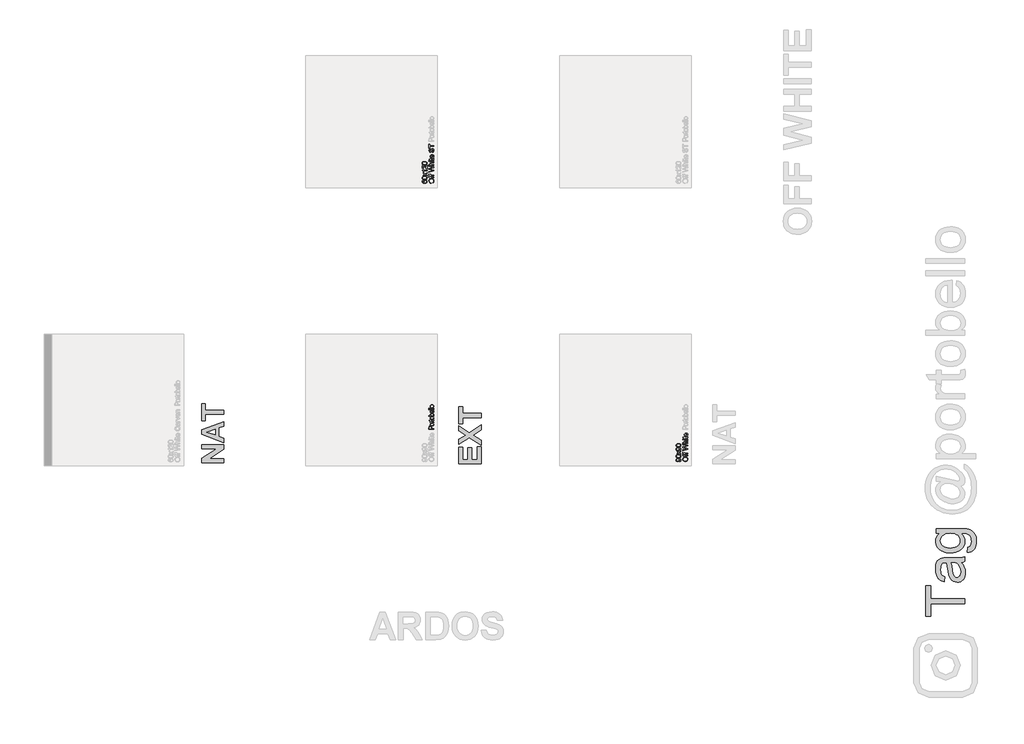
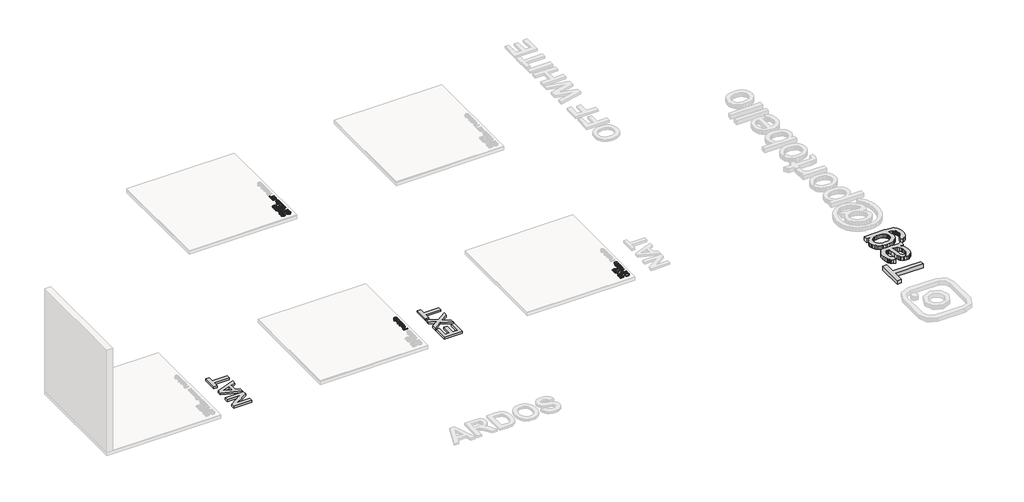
# One storey, part 3 of 12: 8 proxies.
"""IFC4 building model written with IfcOpenShell, lengths in millimetres."""

from ifc_helpers import new_model, si_unit, frame, origin, origin_with_axes, place, context, project, spatial, polyline, outline, extrude, element, save

model = new_model("IFC4")

# Units and contexts
model_context = context("Model", 3, world=origin())
ifc_project = project(units=[si_unit("LENGTHUNIT", "METRE", prefix="MILLI")], contexts=[model_context])

# Site, building, storey
site = spatial("IfcSite", under=ifc_project)
building = spatial("IfcBuilding", under=site)
storey = spatial("IfcBuildingStorey", under=building, Name="PORTOBELLO - SHOWROOM", Elevation=0.0)

# Proxies
placement = place(None, origin())
element("IfcBuildingElementProxy", 1, Name="10mm Arial", ObjectType="10mm Arial", at=placement, inside=storey, context=model_context, shape_type="SweptSolid", body=[
    extrude(outline(polyline([(-5733.4581519, -8456.0975392), (-5755.672093, -8452.749813), (-5772.4781688, -8442.7066346), (-5783.0547762, -8427.3720867), (-5786.580312, -8408.1502525), (-5784.924843, -8394.9739457), (-5779.958436, -8383.1588023), (-5772.030579, -8373.3486157), (-5761.4907599, -8366.1871796), (-5748.847882, -8361.8093838), (-5734.6108488, -8360.3501186), (-5720.1837432, -8361.8860259), (-5707.3630557, -8366.4937479), (-5696.8048424, -8373.9188328), (-5689.1651596, -8383.906829), (-5684.5298465, -8395.6208049), (-5682.9847421, -8408.2238289), (-5684.6923277, -8421.6024708), (-5689.8150845, -8433.4850592), (-5697.8900943, -8443.2707203), (-5708.4544389, -8450.3585801), (-5733.4581519, -8456.0975392)]), holes=[polyline([(-5733.3355245, -8443.5405004), (-5717.620832, -8441.0297058), (-5705.646273, -8433.497322), (-5698.0679039, -8422.1757536), (-5695.5417809, -8408.2974053), (-5698.0924294, -8394.2167219), (-5705.7443749, -8382.8767594), (-5718.0868158, -8375.3995579), (-5734.7089506, -8372.9071573), (-5755.4329697, -8377.1745885), (-5769.1549681, -8389.6457881), (-5774.0232732, -8408.0766761), (-5771.6780255, -8421.5840767), (-5764.6422823, -8433.0681263), (-5752.1250974, -8440.9224069), (-5733.3355245, -8443.5405004)])]), frame((0.0, 0.0, 18.0), z_axis=(0.0, 0.0, 1.0), x_axis=(1.0, 0.0, 0.0)), (0.0, 0.0, 1.0), 20.0),
    extrude(outline(polyline([(-5684.554372, -8300.7041844), (-5745.769936, -8300.7041844), (-5745.769936, -8311.6915934), (-5758.3269747, -8311.6915934), (-5758.3269747, -8300.7041844), (-5765.758191, -8300.7041844), (-5776.2305652, -8299.3798092), (-5783.7108324, -8292.9541371), (-5786.580312, -8280.2989964), (-5785.2068858, -8268.8456036), (-5773.434662, -8270.6850136), (-5774.0232732, -8277.9200262), (-5771.9386085, -8285.8294891), (-5764.1640357, -8288.1471457), (-5758.3269747, -8288.1471457), (-5758.3269747, -8274.020477), (-5745.769936, -8274.020477), (-5745.769936, -8288.1471457), (-5684.554372, -8288.1471457), (-5684.554372, -8300.7041844)])), frame((0.0, 0.0, 18.0), z_axis=(0.0, 0.0, 1.0), x_axis=(1.0, 0.0, 0.0)), (0.0, 0.0, 1.0), 20.0),
    extrude(outline(polyline([(-5684.554372, -8341.5145604), (-5745.769936, -8341.5145604), (-5745.769936, -8352.5019693), (-5758.3269747, -8352.5019693), (-5758.3269747, -8341.5145604), (-5765.758191, -8341.5145604), (-5776.2305652, -8340.1901852), (-5783.7108324, -8333.7645131), (-5786.580312, -8321.1093724), (-5785.2068858, -8309.6559796), (-5773.434662, -8311.4953896), (-5774.0232732, -8318.7304022), (-5771.9386085, -8326.6398651), (-5764.1640357, -8328.9575217), (-5758.3269747, -8328.9575217), (-5758.3269747, -8314.830853), (-5745.769936, -8314.830853), (-5745.769936, -8328.9575217), (-5684.554372, -8328.9575217), (-5684.554372, -8341.5145604)])), frame((0.0, 0.0, 18.0), z_axis=(0.0, 0.0, 1.0), x_axis=(1.0, 0.0, 0.0)), (0.0, 0.0, 1.0), 20.0),
    extrude(outline(polyline([(-5684.554372, -8204.2455253), (-5785.0106821, -8231.6404712), (-5785.0106821, -8218.691025), (-5718.9881267, -8202.7985228), (-5698.6074642, -8197.8934295), (-5716.6336819, -8192.6449797), (-5785.0106821, -8172.730301), (-5785.0106821, -8154.0664212), (-5735.4447146, -8139.596396), (-5698.6074642, -8128.8297163), (-5718.3995155, -8124.0717758), (-5785.0106821, -8108.0566463), (-5785.0106821, -8095.0826746), (-5684.554372, -8122.453095), (-5684.554372, -8135.8930506), (-5762.0548456, -8160.001584), (-5772.8705763, -8163.3615729), (-5759.8475536, -8167.1384947), (-5684.554372, -8189.0887871), (-5684.554372, -8204.2455253)])), frame((0.0, 0.0, 18.0), z_axis=(0.0, 0.0, 1.0), x_axis=(1.0, 0.0, 0.0)), (0.0, 0.0, 1.0), 20.0),
    extrude(outline(polyline([(-5684.554372, -8084.0952657), (-5785.0106821, -8084.0952657), (-5785.0106821, -8071.5382269), (-5748.0753298, -8071.5382269), (-5756.9412859, -8061.7464345), (-5759.8966046, -8049.6860364), (-5756.6715057, -8035.5838932), (-5747.7564987, -8027.0245055), (-5731.2508599, -8024.4493315), (-5684.554372, -8024.4493315), (-5684.554372, -8037.0063703), (-5729.9510102, -8037.0063703), (-5743.194762, -8041.0040213), (-5747.3395658, -8052.3347868), (-5744.5436626, -8062.6232199), (-5736.9652935, -8069.4903505), (-5723.7460672, -8071.5382269), (-5684.554372, -8071.5382269), (-5684.554372, -8084.0952657)])), frame((0.0, 0.0, 18.0), z_axis=(0.0, 0.0, 1.0), x_axis=(1.0, 0.0, 0.0)), (0.0, 0.0, 1.0), 20.0),
    extrude(outline(polyline([(-5772.4536433, -8007.1834032), (-5785.0106821, -8007.1834032), (-5785.0106821, -7994.6263644), (-5772.4536433, -7994.6263644), (-5772.4536433, -8007.1834032)])), frame((0.0, 0.0, 18.0), z_axis=(0.0, 0.0, 1.0), x_axis=(1.0, 0.0, 0.0)), (0.0, 0.0, 1.0), 20.0),
    extrude(outline(polyline([(-5684.554372, -8007.1834032), (-5758.3269747, -8007.1834032), (-5758.3269747, -7994.6263644), (-5684.554372, -7994.6263644), (-5684.554372, -8007.1834032)])), frame((0.0, 0.0, 18.0), z_axis=(0.0, 0.0, 1.0), x_axis=(1.0, 0.0, 0.0)), (0.0, 0.0, 1.0), 20.0),
    extrude(outline(polyline([(-5695.0267461, -7949.1070989), (-5684.18649, -7947.5374691), (-5682.9847421, -7956.9307227), (-5685.0694068, -7967.4521477), (-5690.5385857, -7972.7005975), (-5704.7878817, -7974.2211764), (-5745.769936, -7974.2211764), (-5745.769936, -7983.6389555), (-5758.3269747, -7983.6389555), (-5758.3269747, -7974.2211764), (-5776.2550906, -7974.2211764), (-5783.637256, -7961.6641377), (-5758.3269747, -7961.6641377), (-5758.3269747, -7949.1070989), (-5745.769936, -7949.1070989), (-5745.769936, -7961.6641377), (-5705.1557637, -7961.6641377), (-5698.6810406, -7961.0019501), (-5696.3879095, -7958.8559718), (-5695.5417809, -7954.5762779), (-5695.0267461, -7949.1070989)])), frame((0.0, 0.0, 18.0), z_axis=(0.0, 0.0, 1.0), x_axis=(1.0, 0.0, 0.0)), (0.0, 0.0, 1.0), 20.0),
    extrude(outline(polyline([(-5706.5291898, -7884.899428), (-5704.95956, -7872.5876439), (-5695.6828023, -7877.0236876), (-5688.7482267, -7884.1023504), (-5684.4256133, -7893.6642165), (-5682.9847421, -7905.5498707), (-5685.4710113, -7920.2835446), (-5692.9298187, -7931.6204414), (-5704.8767865, -7938.8493226), (-5720.8275367, -7941.2589497), (-5737.3147814, -7938.8247971), (-5749.6449596, -7931.5223395), (-5757.3336933, -7920.3387269), (-5759.8966046, -7906.2611092), (-5757.3398247, -7892.6218842), (-5749.6694851, -7881.7233801), (-5737.3638324, -7874.5772724), (-5720.9011131, -7872.1952364), (-5717.5165987, -7872.2688128), (-5717.5165987, -7928.7019109), (-5708.1172137, -7926.5283415), (-5701.2071636, -7921.4791611), (-5696.9581266, -7914.1920319), (-5695.5417809, -7905.304616), (-5698.1660058, -7892.9928319), (-5706.5291898, -7884.899428)]), holes=[polyline([(-5730.0736375, -7928.7019109), (-5730.0736375, -7884.7522752), (-5741.4534539, -7889.7799958), (-5745.8680378, -7897.1008475), (-5747.3395658, -7906.3101601), (-5742.642939, -7921.7734667), (-5737.1523002, -7926.638706), (-5730.0736375, -7928.7019109)])]), frame((0.0, 0.0, 18.0), z_axis=(0.0, 0.0, 1.0), x_axis=(1.0, 0.0, 0.0)), (0.0, 0.0, 1.0), 20.0),
])
element("IfcBuildingElementProxy", 2, Name="10mm Arial", ObjectType="10mm Arial", at=placement, inside=storey, context=model_context, shape_type="SweptSolid", body=[
    extrude(outline(polyline([(-5849.6684495, -8454.5279093), (-5851.2380793, -8441.9708706), (-5839.257389, -8436.3300133), (-5835.5417809, -8425.63691), (-5837.9330138, -8415.4711042), (-5844.3218978, -8408.5794481), (-5855.2357304, -8404.4714325), (-5869.8038574, -8402.656548), (-5872.256404, -8402.7301244), (-5862.7405231, -8412.7733029), (-5859.0862286, -8426.5443522), (-5861.318046, -8437.9946793), (-5868.0134983, -8447.5258887), (-5878.3571138, -8453.9546266), (-5891.5334205, -8456.0975392), (-5905.1450544, -8453.8503933), (-5915.8136322, -8447.1089558), (-5922.7114196, -8436.9830039), (-5925.0106821, -8424.5823149), (-5919.7622323, -8406.6909872), (-5904.8016978, -8394.3792031), (-5876.6955134, -8390.1730857), (-5846.198096, -8394.3669404), (-5836.2070342, -8399.5816677), (-5828.919905, -8406.83814), (-5824.4685328, -8415.8236578), (-5822.9847421, -8426.2255212), (-5824.7352473, -8436.9615441), (-5829.9867628, -8445.5270632), (-5838.4081948, -8451.5174084), (-5849.6684495, -8454.5279093)]), holes=[polyline([(-5891.8277261, -8402.7301244), (-5900.338063, -8404.0851564), (-5906.8863625, -8408.1502525), (-5911.0618231, -8414.4594287), (-5912.4536433, -8422.5467012), (-5910.9545242, -8430.9344107), (-5906.4571668, -8437.6543885), (-5899.5747078, -8442.0689724), (-5890.9202839, -8443.5405004), (-5883.1610395, -8442.1486802), (-5877.0020817, -8437.9732196), (-5872.9829709, -8431.4187887), (-5871.6432673, -8422.8900578), (-5877.0020817, -8408.4077699), (-5883.3879, -8404.1495358), (-5891.8277261, -8402.7301244)])]), frame((0.0, 0.0, 18.0), z_axis=(0.0, 0.0, 1.0), x_axis=(1.0, 0.0, 0.0)), (0.0, 0.0, 1.0), 20.0),
    extrude(outline(polyline([(-5873.9731866, -8379.1856767), (-5902.8764487, -8375.494594), (-5919.5415031, -8364.5317106), (-5925.0106821, -8346.22345), (-5921.7733205, -8331.5572211), (-5912.4413806, -8321.4282035), (-5897.578948, -8315.5420916), (-5873.9731866, -8313.2612232), (-5845.1925519, -8316.9155177), (-5828.4907093, -8327.8416129), (-5824.3612339, -8336.0729726), (-5822.9847421, -8346.22345), (-5825.3759751, -8359.2709981), (-5832.549674, -8369.1792865), (-5849.5396908, -8376.6840792), (-5873.9731866, -8379.1856767)]), holes=[polyline([(-5873.9977121, -8366.628638), (-5854.2455147, -8365.15711), (-5842.8135817, -8360.742526), (-5837.3597311, -8354.1697011), (-5835.5417809, -8346.22345), (-5837.3658624, -8338.2771989), (-5842.8381071, -8331.7043739), (-5854.2761715, -8327.2897899), (-5873.9977121, -8325.818262), (-5893.3053855, -8327.240739), (-5904.8262233, -8331.5081702), (-5910.5467883, -8338.0687324), (-5912.4536433, -8346.3706028), (-5910.7736489, -8354.2310147), (-5905.7336656, -8360.5463223), (-5893.4954579, -8365.1080591), (-5873.9977121, -8366.628638)])]), frame((0.0, 0.0, 18.0), z_axis=(0.0, 0.0, 1.0), x_axis=(1.0, 0.0, 0.0)), (0.0, 0.0, 1.0), 20.0),
    extrude(outline(polyline([(-5824.554372, -8306.9827038), (-5861.6614025, -8280.1518436), (-5898.3269747, -8305.413074), (-5898.3269747, -8290.3544376), (-5880.6441135, -8278.1652809), (-5872.3299804, -8272.4508472), (-5879.14806, -8267.496703), (-5898.3269747, -8253.615289), (-5898.3269747, -8238.5076018), (-5861.6368771, -8265.0441564), (-5824.554372, -8239.4886204), (-5824.554372, -8254.5717822), (-5846.8725463, -8269.9737751), (-5850.9682992, -8272.7696783), (-5824.554372, -8291.8750165), (-5824.554372, -8306.9827038)])), frame((0.0, 0.0, 18.0), z_axis=(0.0, 0.0, 1.0), x_axis=(1.0, 0.0, 0.0)), (0.0, 0.0, 1.0), 20.0),
    extrude(outline(polyline([(-5849.6684495, -8230.0708414), (-5851.2380793, -8217.5138026), (-5839.257389, -8211.8729453), (-5835.5417809, -8201.179842), (-5837.9330138, -8191.0140362), (-5844.3218978, -8184.1223802), (-5855.2357304, -8180.0143645), (-5869.8038574, -8178.19948), (-5872.256404, -8178.2730564), (-5862.7405231, -8188.3162349), (-5859.0862286, -8202.0872843), (-5861.318046, -8213.5376114), (-5868.0134983, -8223.0688207), (-5878.3571138, -8229.4975586), (-5891.5334205, -8231.6404712), (-5905.1450544, -8229.3933253), (-5915.8136322, -8222.6518878), (-5922.7114196, -8212.5259359), (-5925.0106821, -8200.1252469), (-5919.7622323, -8182.2339192), (-5904.8016978, -8169.9221351), (-5876.6955134, -8165.7160177), (-5846.198096, -8169.9098724), (-5836.2070342, -8175.1245997), (-5828.919905, -8182.381072), (-5824.4685328, -8191.3665898), (-5822.9847421, -8201.7684532), (-5824.7352473, -8212.5044761), (-5829.9867628, -8221.0699952), (-5838.4081948, -8227.0603404), (-5849.6684495, -8230.0708414)]), holes=[polyline([(-5891.8277261, -8178.2730564), (-5900.338063, -8179.6280884), (-5906.8863625, -8183.6931845), (-5911.0618231, -8190.0023607), (-5912.4536433, -8198.0896332), (-5910.9545242, -8206.4773427), (-5906.4571668, -8213.1973205), (-5899.5747078, -8217.6119045), (-5890.9202839, -8219.0834324), (-5883.1610395, -8217.6916122), (-5877.0020817, -8213.5161516), (-5872.9829709, -8206.9617207), (-5871.6432673, -8198.4329898), (-5877.0020817, -8183.9507019), (-5883.3879, -8179.6924678), (-5891.8277261, -8178.2730564)])]), frame((0.0, 0.0, 18.0), z_axis=(0.0, 0.0, 1.0), x_axis=(1.0, 0.0, 0.0)), (0.0, 0.0, 1.0), 20.0),
    extrude(outline(polyline([(-5873.9731866, -8154.7286087), (-5902.8764487, -8151.0375261), (-5919.5415031, -8140.0746426), (-5925.0106821, -8121.766382), (-5921.7733205, -8107.1001531), (-5912.4413806, -8096.9711355), (-5897.578948, -8091.0850236), (-5873.9731866, -8088.8041552), (-5845.1925519, -8092.4584497), (-5828.4907093, -8103.3845449), (-5824.3612339, -8111.6159046), (-5822.9847421, -8121.766382), (-5825.3759751, -8134.8139301), (-5832.549674, -8144.7222185), (-5849.5396908, -8152.2270112), (-5873.9731866, -8154.7286087)]), holes=[polyline([(-5873.9977121, -8142.17157), (-5854.2455147, -8140.700042), (-5842.8135817, -8136.2854581), (-5837.3597311, -8129.7126331), (-5835.5417809, -8121.766382), (-5837.3658624, -8113.8201309), (-5842.8381071, -8107.2473059), (-5854.2761715, -8102.832722), (-5873.9977121, -8101.361194), (-5893.3053855, -8102.783671), (-5904.8262233, -8107.0511022), (-5910.5467883, -8113.6116644), (-5912.4536433, -8121.9135348), (-5910.7736489, -8129.7739467), (-5905.7336656, -8136.0892543), (-5893.4954579, -8140.6509911), (-5873.9977121, -8142.17157)])]), frame((0.0, 0.0, 18.0), z_axis=(0.0, 0.0, 1.0), x_axis=(1.0, 0.0, 0.0)), (0.0, 0.0, 1.0), 20.0),
])
element("IfcBuildingElementProxy", 3, Name="10mm Arial", ObjectType="10mm Arial", at=placement, inside=storey, context=model_context, shape_type="SweptSolid", body=[
    extrude(outline(polyline([(-10933.4831679, -2756.0975392), (-10955.6971091, -2752.749813), (-10972.5031849, -2742.7066346), (-10983.0797922, -2727.3720867), (-10986.605328, -2708.1502525), (-10984.9498591, -2694.9739457), (-10979.9834521, -2683.1588023), (-10972.0555951, -2673.3486157), (-10961.515776, -2666.1871796), (-10948.8728981, -2661.8093838), (-10934.6358649, -2660.3501186), (-10920.2087593, -2661.8860259), (-10907.3880717, -2666.4937479), (-10896.8298585, -2673.9188328), (-10889.1901757, -2683.906829), (-10884.5548626, -2695.6208049), (-10883.0097582, -2708.2238289), (-10884.7173438, -2721.6024708), (-10889.8401006, -2733.4850592), (-10897.9151104, -2743.2707203), (-10908.479455, -2750.3585801), (-10933.4831679, -2756.0975392)]), holes=[polyline([(-10933.3605406, -2743.5405004), (-10917.645848, -2741.0297058), (-10905.6712891, -2733.497322), (-10898.09292, -2722.1757536), (-10895.566797, -2708.2974053), (-10898.1174455, -2694.2167219), (-10905.769391, -2682.8767594), (-10918.1118319, -2675.3995579), (-10934.7339667, -2672.9071573), (-10955.4579858, -2677.1745885), (-10969.1799842, -2689.6457881), (-10974.0482893, -2708.0766761), (-10971.7030415, -2721.5840767), (-10964.6672984, -2733.0681263), (-10952.1501135, -2740.9224069), (-10933.3605406, -2743.5405004)])]), frame((0.0, 0.0, 19.0), z_axis=(0.0, 0.0, 1.0), x_axis=(1.0, 0.0, 0.0)), (0.0, 0.0, 1.0), 20.0),
    extrude(outline(polyline([(-10884.579388, -2600.7041844), (-10945.794952, -2600.7041844), (-10945.794952, -2611.6915934), (-10958.3519908, -2611.6915934), (-10958.3519908, -2600.7041844), (-10965.7832071, -2600.7041844), (-10976.2555812, -2599.3798092), (-10983.7358485, -2592.9541371), (-10986.605328, -2580.2989964), (-10985.2319019, -2568.8456036), (-10973.4596781, -2570.6850136), (-10974.0482893, -2577.9200262), (-10971.9636246, -2585.8294891), (-10964.1890518, -2588.1471457), (-10958.3519908, -2588.1471457), (-10958.3519908, -2574.020477), (-10945.794952, -2574.020477), (-10945.794952, -2588.1471457), (-10884.579388, -2588.1471457), (-10884.579388, -2600.7041844)])), frame((0.0, 0.0, 19.0), z_axis=(0.0, 0.0, 1.0), x_axis=(1.0, 0.0, 0.0)), (0.0, 0.0, 1.0), 20.0),
    extrude(outline(polyline([(-10884.579388, -2641.5145604), (-10945.794952, -2641.5145604), (-10945.794952, -2652.5019693), (-10958.3519908, -2652.5019693), (-10958.3519908, -2641.5145604), (-10965.7832071, -2641.5145604), (-10976.2555812, -2640.1901852), (-10983.7358485, -2633.7645131), (-10986.605328, -2621.1093724), (-10985.2319019, -2609.6559796), (-10973.4596781, -2611.4953896), (-10974.0482893, -2618.7304022), (-10971.9636246, -2626.6398651), (-10964.1890518, -2628.9575217), (-10958.3519908, -2628.9575217), (-10958.3519908, -2614.830853), (-10945.794952, -2614.830853), (-10945.794952, -2628.9575217), (-10884.579388, -2628.9575217), (-10884.579388, -2641.5145604)])), frame((0.0, 0.0, 19.0), z_axis=(0.0, 0.0, 1.0), x_axis=(1.0, 0.0, 0.0)), (0.0, 0.0, 1.0), 20.0),
    extrude(outline(polyline([(-10884.579388, -2504.2455253), (-10985.0356982, -2531.6404712), (-10985.0356982, -2518.691025), (-10919.0131428, -2502.7985228), (-10898.6324803, -2497.8934295), (-10916.658698, -2492.6449797), (-10985.0356982, -2472.730301), (-10985.0356982, -2454.0664212), (-10935.4697307, -2439.596396), (-10898.6324803, -2428.8297163), (-10918.4245316, -2424.0717758), (-10985.0356982, -2408.0566463), (-10985.0356982, -2395.0826746), (-10884.579388, -2422.453095), (-10884.579388, -2435.8930506), (-10962.0798617, -2460.001584), (-10972.8955923, -2463.3615729), (-10959.8725697, -2467.1384947), (-10884.579388, -2489.0887871), (-10884.579388, -2504.2455253)])), frame((0.0, 0.0, 19.0), z_axis=(0.0, 0.0, 1.0), x_axis=(1.0, 0.0, 0.0)), (0.0, 0.0, 1.0), 20.0),
    extrude(outline(polyline([(-10884.579388, -2384.0952657), (-10985.0356982, -2384.0952657), (-10985.0356982, -2371.5382269), (-10948.1003459, -2371.5382269), (-10956.966302, -2361.7464345), (-10959.9216207, -2349.6860364), (-10956.6965218, -2335.5838932), (-10947.7815148, -2327.0245055), (-10931.275876, -2324.4493315), (-10884.579388, -2324.4493315), (-10884.579388, -2337.0063703), (-10929.9760262, -2337.0063703), (-10943.2197781, -2341.0040213), (-10947.3645819, -2352.3347868), (-10944.5686787, -2362.6232199), (-10936.9903096, -2369.4903505), (-10923.7710833, -2371.5382269), (-10884.579388, -2371.5382269), (-10884.579388, -2384.0952657)])), frame((0.0, 0.0, 19.0), z_axis=(0.0, 0.0, 1.0), x_axis=(1.0, 0.0, 0.0)), (0.0, 0.0, 1.0), 20.0),
    extrude(outline(polyline([(-10972.4786594, -2307.1834032), (-10985.0356982, -2307.1834032), (-10985.0356982, -2294.6263644), (-10972.4786594, -2294.6263644), (-10972.4786594, -2307.1834032)])), frame((0.0, 0.0, 19.0), z_axis=(0.0, 0.0, 1.0), x_axis=(1.0, 0.0, 0.0)), (0.0, 0.0, 1.0), 20.0),
    extrude(outline(polyline([(-10884.579388, -2307.1834032), (-10958.3519908, -2307.1834032), (-10958.3519908, -2294.6263644), (-10884.579388, -2294.6263644), (-10884.579388, -2307.1834032)])), frame((0.0, 0.0, 19.0), z_axis=(0.0, 0.0, 1.0), x_axis=(1.0, 0.0, 0.0)), (0.0, 0.0, 1.0), 20.0),
    extrude(outline(polyline([(-10895.0517622, -2249.1070989), (-10884.211506, -2247.5374691), (-10883.0097582, -2256.9307227), (-10885.0944228, -2267.4521477), (-10890.5636018, -2272.7005975), (-10904.8128978, -2274.2211764), (-10945.794952, -2274.2211764), (-10945.794952, -2283.6389555), (-10958.3519908, -2283.6389555), (-10958.3519908, -2274.2211764), (-10976.2801067, -2274.2211764), (-10983.6622721, -2261.6641377), (-10958.3519908, -2261.6641377), (-10958.3519908, -2249.1070989), (-10945.794952, -2249.1070989), (-10945.794952, -2261.6641377), (-10905.1807798, -2261.6641377), (-10898.7060567, -2261.0019501), (-10896.4129256, -2258.8559718), (-10895.566797, -2254.5762779), (-10895.0517622, -2249.1070989)])), frame((0.0, 0.0, 19.0), z_axis=(0.0, 0.0, 1.0), x_axis=(1.0, 0.0, 0.0)), (0.0, 0.0, 1.0), 20.0),
    extrude(outline(polyline([(-10906.5542059, -2184.899428), (-10904.984576, -2172.5876439), (-10895.7078184, -2177.0236876), (-10888.7732428, -2184.1023504), (-10884.4506293, -2193.6642165), (-10883.0097582, -2205.5498707), (-10885.4960273, -2220.2835446), (-10892.9548348, -2231.6204414), (-10904.9018026, -2238.8493226), (-10920.8525528, -2241.2589497), (-10937.3397975, -2238.8247971), (-10949.6699757, -2231.5223395), (-10957.3587094, -2220.3387269), (-10959.9216207, -2206.2611092), (-10957.3648408, -2192.6218842), (-10949.6945012, -2181.7233801), (-10937.3888484, -2174.5772724), (-10920.9261292, -2172.1952364), (-10917.5416148, -2172.2688128), (-10917.5416148, -2228.7019109), (-10908.1422298, -2226.5283415), (-10901.2321797, -2221.4791611), (-10896.9831426, -2214.1920319), (-10895.566797, -2205.304616), (-10898.1910219, -2192.9928319), (-10906.5542059, -2184.899428)]), holes=[polyline([(-10930.0986536, -2228.7019109), (-10930.0986536, -2184.7522752), (-10941.47847, -2189.7799958), (-10945.8930539, -2197.1008475), (-10947.3645819, -2206.3101601), (-10942.6679551, -2221.7734667), (-10937.1773163, -2226.638706), (-10930.0986536, -2228.7019109)])]), frame((0.0, 0.0, 19.0), z_axis=(0.0, 0.0, 1.0), x_axis=(1.0, 0.0, 0.0)), (0.0, 0.0, 1.0), 20.0),
    extrude(outline(polyline([(-10919.1112447, -2123.5367112), (-10919.1112447, -2110.9796724), (-10906.5419432, -2106.9329705), (-10898.5956921, -2097.0492076), (-10895.566797, -2081.9905712), (-10897.8599281, -2068.8694467), (-10904.1629729, -2060.3958981), (-10912.5874706, -2057.6122577), (-10920.4233571, -2059.6969223), (-10926.125528, -2068.2317846), (-10930.9202567, -2086.5155198), (-10937.112937, -2106.1972065), (-10946.4571396, -2116.8780471), (-10958.940602, -2120.3974515), (-10973.1531097, -2116.0441812), (-10983.1840255, -2103.3277269), (-10986.605328, -2084.712898), (-10983.0246099, -2064.8472703), (-10972.5031849, -2051.6035184), (-10956.782361, -2046.6248488), (-10956.782361, -2059.1818875), (-10964.2748909, -2061.4872814), (-10969.6827563, -2066.2942728), (-10974.0482893, -2084.2223887), (-10969.7318072, -2102.1995555), (-10959.308484, -2107.8404128), (-10950.6019434, -2103.8427617), (-10943.5876601, -2083.3394719), (-10937.2846152, -2061.1193994), (-10927.1065467, -2048.9670308), (-10912.9063017, -2045.0552189), (-10897.8844535, -2049.555642), (-10886.9215701, -2062.5050882), (-10883.0097582, -2081.5000619), (-10887.2281384, -2103.9286009), (-10899.93233, -2118.1165832), (-10919.1112447, -2123.5367112)])), frame((0.0, 0.0, 19.0), z_axis=(0.0, 0.0, 1.0), x_axis=(1.0, 0.0, 0.0)), (0.0, 0.0, 1.0), 20.0),
    extrude(outline(polyline([(-10884.579388, -2001.1055832), (-10972.4786594, -2001.1055832), (-10972.4786594, -2034.06781), (-10985.0356982, -2034.06781), (-10985.0356982, -1955.5863177), (-10972.4786594, -1955.5863177), (-10972.4786594, -1988.5485445), (-10884.579388, -1988.5485445), (-10884.579388, -2001.1055832)])), frame((0.0, 0.0, 19.0), z_axis=(0.0, 0.0, 1.0), x_axis=(1.0, 0.0, 0.0)), (0.0, 0.0, 1.0), 20.0),
])
element("IfcBuildingElementProxy", 4, Name="10mm Arial", ObjectType="10mm Arial", at=placement, inside=storey, context=model_context, shape_type="SweptSolid", body=[
    extrude(outline(polyline([(-11098.3519908, -2691.7427155), (-11096.782361, -2704.2997543), (-11107.2547351, -2709.0576947), (-11112.4786594, -2721.639259), (-11109.4375016, -2732.9700244), (-11098.020897, -2741.5416749), (-11075.641409, -2745.1101303), (-11085.660062, -2734.0368822), (-11088.9342117, -2720.3148838), (-11086.6962629, -2708.7143382), (-11079.9824165, -2698.9777281), (-11069.7246402, -2692.3742463), (-11056.8549018, -2690.1730857), (-11039.5276598, -2694.3178895), (-11027.2649266, -2705.7222313), (-11023.0097582, -2722.1788192), (-11025.8301868, -2736.4250495), (-11034.2914727, -2747.7711434), (-11049.2274817, -2755.1931626), (-11071.4720797, -2757.667169), (-11096.481924, -2754.9203168), (-11113.5823054, -2746.6797601), (-11122.17235, -2735.4287024), (-11125.0356982, -2720.8544441), (-11123.2637332, -2709.8363783), (-11117.9478384, -2701.0133418), (-11109.5049466, -2694.8329243), (-11098.3519908, -2691.7427155)]), holes=[polyline([(-11057.0511055, -2745.1101303), (-11046.1740612, -2742.2038625), (-11038.276861, -2734.4783406), (-11035.566797, -2723.1598379), (-11036.9708799, -2714.8732959), (-11041.1831288, -2708.358719), (-11047.8050047, -2704.1372731), (-11056.4379688, -2702.7301244), (-11064.7245108, -2704.118879), (-11071.042884, -2708.2851426), (-11075.0436007, -2714.9100841), (-11076.377173, -2723.6748727), (-11071.042884, -2738.8683991), (-11064.8777949, -2743.5496975), (-11057.0511055, -2745.1101303)])]), frame((0.0, 0.0, 19.0), z_axis=(0.0, 0.0, 1.0), x_axis=(1.0, 0.0, 0.0)), (0.0, 0.0, 1.0), 20.0),
    extrude(outline(polyline([(-11073.9982027, -2679.1856767), (-11102.9014648, -2675.494594), (-11119.5665192, -2664.5317106), (-11125.0356982, -2646.22345), (-11121.7983366, -2631.5572211), (-11112.4663967, -2621.4282035), (-11097.6039641, -2615.5420916), (-11073.9982027, -2613.2612232), (-11045.217568, -2616.9155177), (-11028.5157254, -2627.8416129), (-11024.38625, -2636.0729726), (-11023.0097582, -2646.22345), (-11025.4009912, -2659.2709981), (-11032.5746901, -2669.1792865), (-11049.5647069, -2676.6840792), (-11073.9982027, -2679.1856767)]), holes=[polyline([(-11074.0227282, -2666.628638), (-11054.2705307, -2665.15711), (-11042.8385977, -2660.742526), (-11037.3847472, -2654.1697011), (-11035.566797, -2646.22345), (-11037.3908785, -2638.2771989), (-11042.8631232, -2631.7043739), (-11054.3011876, -2627.2897899), (-11074.0227282, -2625.818262), (-11093.3304016, -2627.240739), (-11104.8512394, -2631.5081702), (-11110.5718044, -2638.0687324), (-11112.4786594, -2646.3706028), (-11110.798665, -2654.2310147), (-11105.7586816, -2660.5463223), (-11093.5204739, -2665.1080591), (-11074.0227282, -2666.628638)])]), frame((0.0, 0.0, 19.0), z_axis=(0.0, 0.0, 1.0), x_axis=(1.0, 0.0, 0.0)), (0.0, 0.0, 1.0), 20.0),
    extrude(outline(polyline([(-11024.579388, -2606.9827038), (-11061.6864186, -2580.1518436), (-11098.3519908, -2605.413074), (-11098.3519908, -2590.3544376), (-11080.6691296, -2578.1652809), (-11072.3549965, -2572.4508472), (-11079.1730761, -2567.496703), (-11098.3519908, -2553.615289), (-11098.3519908, -2538.5076018), (-11061.6618932, -2565.0441564), (-11024.579388, -2539.4886204), (-11024.579388, -2554.5717822), (-11046.8975624, -2569.9737751), (-11050.9933153, -2572.7696783), (-11024.579388, -2591.8750165), (-11024.579388, -2606.9827038)])), frame((0.0, 0.0, 19.0), z_axis=(0.0, 0.0, 1.0), x_axis=(1.0, 0.0, 0.0)), (0.0, 0.0, 1.0), 20.0),
    extrude(outline(polyline([(-11024.579388, -2484.5515758), (-11024.579388, -2497.1086146), (-11102.8646766, -2497.1086146), (-11094.391128, -2509.0034658), (-11088.0512949, -2522.2226921), (-11099.9216207, -2522.2226921), (-11111.669319, -2503.8163296), (-11125.0356982, -2492.6449797), (-11125.0356982, -2484.5515758), (-11024.579388, -2484.5515758)])), frame((0.0, 0.0, 19.0), z_axis=(0.0, 0.0, 1.0), x_axis=(1.0, 0.0, 0.0)), (0.0, 0.0, 1.0), 20.0),
    extrude(outline(polyline([(-11037.1364268, -2390.3737851), (-11024.579388, -2390.3737851), (-11024.579388, -2456.2982386), (-11033.2368777, -2454.9493379), (-11046.5664686, -2447.3096552), (-11061.1223329, -2431.5765685), (-11082.0425557, -2409.908319), (-11096.2673262, -2404.5004537), (-11107.7820326, -2409.6140134), (-11112.4786594, -2422.9681298), (-11107.8923972, -2436.886332), (-11095.2127311, -2442.17157), (-11096.782361, -2454.7286087), (-11108.9285982, -2451.6843852), (-11117.8006856, -2445.1023632), (-11123.226945, -2435.3258992), (-11125.0356982, -2422.6983497), (-11123.0246099, -2409.9788297), (-11116.9913452, -2400.2207598), (-11107.9782363, -2394.0127511), (-11097.0276156, -2391.9434149), (-11085.1205017, -2394.1752323), (-11072.8087176, -2401.5941859), (-11055.604103, -2419.5836155), (-11043.5253108, -2434.0291151), (-11037.1364268, -2439.6944979), (-11037.1364268, -2390.3737851)])), frame((0.0, 0.0, 19.0), z_axis=(0.0, 0.0, 1.0), x_axis=(1.0, 0.0, 0.0)), (0.0, 0.0, 1.0), 20.0),
    extrude(outline(polyline([(-11073.9982027, -2377.8167463), (-11102.9014648, -2374.1256636), (-11119.5665192, -2363.1627801), (-11125.0356982, -2344.8545195), (-11121.7983366, -2330.1882906), (-11112.4663967, -2320.059273), (-11097.6039641, -2314.1731611), (-11073.9982027, -2311.8922927), (-11045.217568, -2315.5465872), (-11028.5157254, -2326.4726825), (-11024.38625, -2334.7040421), (-11023.0097582, -2344.8545195), (-11025.4009912, -2357.9020676), (-11032.5746901, -2367.810356), (-11049.5647069, -2375.3151487), (-11073.9982027, -2377.8167463)]), holes=[polyline([(-11074.0227282, -2365.2597075), (-11054.2705307, -2363.7881795), (-11042.8385977, -2359.3735956), (-11037.3847472, -2352.8007706), (-11035.566797, -2344.8545195), (-11037.3908785, -2336.9082684), (-11042.8631232, -2330.3354434), (-11054.3011876, -2325.9208595), (-11074.0227282, -2324.4493315), (-11093.3304016, -2325.8718086), (-11104.8512394, -2330.1392397), (-11110.5718044, -2336.699802), (-11112.4786594, -2345.0016723), (-11110.798665, -2352.8620843), (-11105.7586816, -2359.1773919), (-11093.5204739, -2363.7391286), (-11074.0227282, -2365.2597075)])]), frame((0.0, 0.0, 19.0), z_axis=(0.0, 0.0, 1.0), x_axis=(1.0, 0.0, 0.0)), (0.0, 0.0, 1.0), 20.0),
])
element("IfcBuildingElementProxy", 5, Name="10mm Arial Narrow", ObjectType="10mm Arial Narrow", at=placement, inside=storey, context=model_context, shape_type="SweptSolid", body=[
    extrude(outline(polyline([(-10884.579388, -7796.6698539), (-10985.2979918, -7796.6698539), (-10985.2979918, -7765.3729692), (-10983.4196711, -7749.0772677), (-10973.9392279, -7737.6042816), (-10956.9201191, -7733.3146032), (-10944.8442935, -7735.1009116), (-10935.2178998, -7740.4598368), (-10928.9166413, -7750.2036256), (-10926.8162219, -7765.1445248), (-10926.8162219, -7786.9228923), (-10884.579388, -7786.9228923), (-10884.579388, -7796.6698539)]), holes=[polyline([(-10938.1876771, -7786.9228923), (-10938.1876771, -7763.9515373), (-10942.7184913, -7748.0873419), (-10956.3870821, -7743.0615648), (-10966.5528585, -7745.5363793), (-10972.3528083, -7751.5140081), (-10973.9265365, -7764.1799817), (-10973.9265365, -7786.9228923), (-10938.1876771, -7786.9228923)])]), frame((0.0, 0.0, 18.0), z_axis=(0.0, 0.0, 1.0), x_axis=(1.0, 0.0, 0.0)), (0.0, 0.0, 1.0), 20.0),
    extrude(outline(polyline([(-10921.1304942, -7725.1921351), (-10937.7212698, -7723.2376663), (-10949.6733546, -7717.3742596), (-10956.8979092, -7708.5156929), (-10959.3060941, -7697.5757438), (-10956.8979092, -7686.7627082), (-10949.6733546, -7677.8787588), (-10937.9116401, -7671.939204), (-10921.8919756, -7669.9593524), (-10904.730089, -7671.9043028), (-10892.5876339, -7677.7391539), (-10885.3630793, -7686.588202), (-10882.9548944, -7697.5757438), (-10885.369425, -7708.436372), (-10892.6130166, -7717.3108029), (-10904.5714471, -7723.2218021), (-10921.1304942, -7725.1921351)]), holes=[polyline([(-10921.155877, -7715.4451735), (-10908.6041256, -7714.1411366), (-10899.7328675, -7710.229026), (-10894.4596089, -7704.3878293), (-10892.7018561, -7697.2965339), (-10894.4754731, -7690.5764608), (-10899.7963243, -7684.8843875), (-10908.6834465, -7681.0008324), (-10921.155877, -7679.7063141), (-10933.6695543, -7681.0103509), (-10942.528121, -7684.9224615), (-10947.8013795, -7690.7636583), (-10949.5591324, -7697.8549536), (-10947.791861, -7704.6226194), (-10942.4900469, -7710.3051742), (-10933.6219617, -7714.1601737), (-10921.155877, -7715.4451735)])]), frame((0.0, 0.0, 18.0), z_axis=(0.0, 0.0, 1.0), x_axis=(1.0, 0.0, 0.0)), (0.0, 0.0, 1.0), 20.0),
    extrude(outline(polyline([(-10892.7018561, -7598.4816336), (-10882.9548944, -7596.85714), (-10882.9548944, -7604.2181267), (-10885.0743509, -7612.492891), (-10890.8743008, -7616.8079522), (-10905.520126, -7617.9755569), (-10947.9346388, -7617.9755569), (-10947.9346388, -7626.098025), (-10951.183626, -7626.098025), (-10946.3101452, -7627.7225186), (-10947.9346388, -7635.286567), (-10945.6121206, -7641.3657266), (-10939.1268375, -7645.2365903), (-10923.7195309, -7647.2164419), (-10884.579388, -7647.2164419), (-10884.579388, -7656.9634036), (-10957.6816004, -7656.9634036), (-10957.6816004, -7647.2164419), (-10947.9854042, -7647.2164419), (-10957.0724153, -7640.9722946), (-10959.3060941, -7634.575851), (-10957.6816004, -7626.098025), (-10957.6816004, -7617.9755569), (-10973.9265365, -7617.9755569), (-10982.0490046, -7608.2285953), (-10957.6816004, -7608.2285953), (-10957.6816004, -7598.4816336), (-10947.9346388, -7598.4816336), (-10947.9346388, -7608.2285953), (-10903.2864473, -7608.2285953), (-10895.2908928, -7607.3655831), (-10892.7018561, -7602.7459294), (-10892.7018561, -7598.4816336)])), frame((0.0, 0.0, 18.0), z_axis=(0.0, 0.0, 1.0), x_axis=(1.0, 0.0, 0.0)), (0.0, 0.0, 1.0), 20.0),
    extrude(outline(polyline([(-10921.1304942, -7591.9836592), (-10937.7212698, -7590.0291903), (-10949.6733546, -7584.1657837), (-10956.8979092, -7575.307217), (-10959.3060941, -7564.3672679), (-10956.8979092, -7553.5542323), (-10949.6733546, -7544.6702828), (-10937.9116401, -7538.7307281), (-10921.8919756, -7536.7508765), (-10904.730089, -7538.6958269), (-10892.5876339, -7544.5306779), (-10885.3630793, -7553.3797261), (-10882.9548944, -7564.3672679), (-10885.369425, -7575.227896), (-10892.6130166, -7584.1023269), (-10904.5714471, -7590.0133261), (-10921.1304942, -7591.9836592)]), holes=[polyline([(-10921.155877, -7582.2366975), (-10908.6041256, -7580.9326607), (-10899.7328675, -7577.0205501), (-10894.4596089, -7571.1793534), (-10892.7018561, -7564.088058), (-10894.4754731, -7557.3679848), (-10899.7963243, -7551.6759115), (-10908.6834465, -7547.7923565), (-10921.155877, -7546.4978382), (-10933.6695543, -7547.801875), (-10942.528121, -7551.7139856), (-10947.8013795, -7557.5551823), (-10949.5591324, -7564.6464777), (-10947.791861, -7571.4141434), (-10942.4900469, -7577.0966982), (-10933.6219617, -7580.9516977), (-10921.155877, -7582.2366975)])]), frame((0.0, 0.0, 18.0), z_axis=(0.0, 0.0, 1.0), x_axis=(1.0, 0.0, 0.0)), (0.0, 0.0, 1.0), 20.0),
    extrude(outline(polyline([(-10884.579388, -7514.007966), (-10884.579388, -7523.7549276), (-10985.2979918, -7523.7549276), (-10985.2979918, -7514.007966), (-10949.8891077, -7514.007966), (-10956.9708845, -7506.6089052), (-10959.3060941, -7497.4076719), (-10955.1052551, -7484.5259452), (-10942.3758247, -7475.2485638), (-10921.6889139, -7471.7711321), (-10905.2345705, -7473.7033911), (-10893.0318313, -7479.5001681), (-10885.4741287, -7487.8732905), (-10882.9548944, -7497.5345855), (-10885.5693138, -7506.8754237), (-10893.3364239, -7514.007966), (-10884.579388, -7514.007966)]), holes=[polyline([(-10921.6889139, -7514.007966), (-10904.4413607, -7511.9265835), (-10895.7097075, -7506.0377942), (-10892.7018561, -7497.5853509), (-10894.4913373, -7491.6426233), (-10899.859781, -7486.404266), (-10921.2827905, -7481.5180938), (-10942.7184913, -7486.226587), (-10947.8489721, -7491.47129), (-10949.5591324, -7497.7884126), (-10947.7696512, -7503.7660414), (-10942.4012074, -7509.058337), (-10921.6889139, -7514.007966)])]), frame((0.0, 0.0, 18.0), z_axis=(0.0, 0.0, 1.0), x_axis=(1.0, 0.0, 0.0)), (0.0, 0.0, 1.0), 20.0),
    extrude(outline(polyline([(-10907.3222986, -7419.7873367), (-10905.697805, -7410.040375), (-10895.8112384, -7413.7399054), (-10888.6913875, -7419.5588922), (-10884.3890177, -7427.2625455), (-10882.9548944, -7436.6160751), (-10885.369425, -7448.2096291), (-10892.6130166, -7457.3537514), (-10904.4191508, -7463.2933061), (-10920.5213091, -7465.2731577), (-10937.1882328, -7463.2837876), (-10949.3687621, -7457.3156773), (-10956.8217611, -7448.3016415), (-10959.3060941, -7437.1744948), (-10956.9074277, -7426.4915456), (-10949.7114287, -7417.7440283), (-10937.9719241, -7411.9091772), (-10921.942741, -7409.9642269), (-10918.6937538, -7410.040375), (-10918.6937538, -7455.5261961), (-10899.2505959, -7449.5231845), (-10894.339041, -7443.5931483), (-10892.7018561, -7436.4891616), (-10896.3569667, -7426.3106938), (-10907.3222986, -7419.7873367)]), holes=[polyline([(-10928.4407155, -7454.8662455), (-10928.4407155, -7419.7873367), (-10942.7058, -7424.0516324), (-10947.8457993, -7429.8769649), (-10949.5591324, -7437.0983467), (-10943.8480221, -7449.3074315), (-10928.4407155, -7454.8662455)])]), frame((0.0, 0.0, 18.0), z_axis=(0.0, 0.0, 1.0), x_axis=(1.0, 0.0, 0.0)), (0.0, 0.0, 1.0), 20.0),
    extrude(outline(polyline([(-10884.579388, -7397.0444261), (-10985.2979918, -7397.0444261), (-10985.2979918, -7387.2974645), (-10884.579388, -7387.2974645), (-10884.579388, -7397.0444261)])), frame((0.0, 0.0, 18.0), z_axis=(0.0, 0.0, 1.0), x_axis=(1.0, 0.0, 0.0)), (0.0, 0.0, 1.0), 20.0),
    extrude(outline(polyline([(-10884.579388, -7371.0525284), (-10985.2979918, -7371.0525284), (-10985.2979918, -7361.3055667), (-10884.579388, -7361.3055667), (-10884.579388, -7371.0525284)])), frame((0.0, 0.0, 18.0), z_axis=(0.0, 0.0, 1.0), x_axis=(1.0, 0.0, 0.0)), (0.0, 0.0, 1.0), 20.0),
    extrude(outline(polyline([(-10921.1304942, -7349.9341115), (-10937.7212698, -7347.9796426), (-10949.6733546, -7342.116236), (-10956.8979092, -7333.2576693), (-10959.3060941, -7322.3177201), (-10956.8979092, -7311.5046845), (-10949.6733546, -7302.6207351), (-10937.9116401, -7296.6811804), (-10921.8919756, -7294.7013288), (-10904.730089, -7296.6462791), (-10892.5876339, -7302.4811302), (-10885.3630793, -7311.3301784), (-10882.9548944, -7322.3177201), (-10885.369425, -7333.1783483), (-10892.6130166, -7342.0527792), (-10904.5714471, -7347.9637784), (-10921.1304942, -7349.9341115)]), holes=[polyline([(-10921.155877, -7340.1871498), (-10908.6041256, -7338.883113), (-10899.7328675, -7334.9710024), (-10894.4596089, -7329.1298056), (-10892.7018561, -7322.0385103), (-10894.4754731, -7315.3184371), (-10899.7963243, -7309.6263638), (-10908.6834465, -7305.7428088), (-10921.155877, -7304.4482904), (-10933.6695543, -7305.7523273), (-10942.528121, -7309.6644379), (-10947.8013795, -7315.5056346), (-10949.5591324, -7322.59693), (-10947.791861, -7329.3645957), (-10942.4900469, -7335.0471505), (-10933.6219617, -7338.90215), (-10921.155877, -7340.1871498)])]), frame((0.0, 0.0, 18.0), z_axis=(0.0, 0.0, 1.0), x_axis=(1.0, 0.0, 0.0)), (0.0, 0.0, 1.0), 20.0),
])
element("IfcBuildingElementProxy", 6, Name="450mm Arial", ObjectType="450mm Arial", at=placement, inside=storey, context=model_context, shape_type="SweptSolid", body=[
    extrude(outline(polyline([(-9914.3689305, -8502.1411661), (-10373.4856605, -8502.1411661), (-10373.4856605, -8159.6255104), (-10293.3224219, -8159.6255104), (-10293.3224219, -8414.6903604), (-10191.2964819, -8414.6903604), (-10191.2964819, -8174.2006447), (-10111.1332433, -8174.2006447), (-10111.1332433, -8414.6903604), (-9994.532169, -8414.6903604), (-9994.532169, -8152.3379432), (-9914.3689305, -8152.3379432), (-9914.3689305, -8502.1411661)])), origin_with_axes(), (0.0, 0.0, 1.0), 50.0),
    extrude(outline(polyline([(-9914.3689305, -8119.5438911), (-10155.2002509, -7962.9750658), (-10373.4856605, -8104.9687568), (-10373.4856605, -8002.7150803), (-10233.7693341, -7911.8482275), (-10373.4856605, -7821.095243), (-10373.4856605, -7718.7276983), (-10155.0863827, -7860.7213893), (-9914.3689305, -7704.152564), (-9914.3689305, -7806.4062404), (-10076.4034312, -7911.8482275), (-9914.3689305, -8017.1763464), (-9914.3689305, -8119.5438911)])), origin_with_axes(), (0.0, 0.0, 1.0), 50.0),
    extrude(outline(polyline([(-9914.3689305, -7554.7574375), (-10293.3224219, -7554.7574375), (-10293.3224219, -7685.9336461), (-10373.4856605, -7685.9336461), (-10373.4856605, -7336.1304233), (-10293.3224219, -7336.1304233), (-10293.3224219, -7467.3066318), (-9914.3689305, -7467.3066318), (-9914.3689305, -7554.7574375)])), origin_with_axes(), (0.0, 0.0, 1.0), 50.0),
])
element("IfcBuildingElementProxy", 7, Name="450mm Arial", ObjectType="450mm Arial", at=placement, inside=storey, context=model_context, shape_type="SweptSolid", body=[
    extrude(outline(polyline([(-15183.5610723, -8482.1956112), (-15642.6778022, -8482.1956112), (-15642.6778022, -8390.5316807), (-15333.6394081, -8197.9804926), (-15642.6778022, -8197.9804926), (-15642.6778022, -8110.5296869), (-15183.5610723, -8110.5296869), (-15183.5610723, -8205.0403233), (-15488.0447369, -8394.7448055), (-15183.5610723, -8394.7448055), (-15183.5610723, -8482.1956112)])), origin_with_axes(), (0.0, 0.0, 1.0), 50.0),
    extrude(outline(polyline([(-15183.5610723, -7636.8378227), (-15183.5610723, -7728.7294896), (-15285.5870123, -7764.7118524), (-15285.5870123, -7938.0193085), (-15183.5610723, -7973.5461983), (-15183.5610723, -8066.8042841), (-15642.6778022, -7899.4179763), (-15642.6778022, -7806.0460222), (-15183.5610723, -7636.8378227)]), holes=[polyline([(-15365.7502508, -7792.7234386), (-15533.3642951, -7851.8210534), (-15365.7502508, -7910.1215905), (-15365.7502508, -7792.7234386)])]), origin_with_axes(), (0.0, 0.0, 1.0), 50.0),
    extrude(outline(polyline([(-15183.5610723, -7491.0864798), (-15562.5145637, -7491.0864798), (-15562.5145637, -7622.2626884), (-15642.6778022, -7622.2626884), (-15642.6778022, -7272.4594655), (-15562.5145637, -7272.4594655), (-15562.5145637, -7403.6356741), (-15183.5610723, -7403.6356741), (-15183.5610723, -7491.0864798)])), origin_with_axes(), (0.0, 0.0, 1.0), 50.0),
])
element("IfcBuildingElementProxy", 8, Name="80mm Arial", ObjectType="80mm Arial", at=placement, inside=storey, context=model_context, shape_type="SweptSolid", body=[
    extrude(outline(polyline([(-8.7635104, -11363.1133966), (-708.2286214, -11363.1133966), (-708.2286214, -11625.4128133), (-808.1522087, -11625.4128133), (-808.1522087, -11000.8903927), (-708.2286214, -11000.8903927), (-708.2286214, -11263.1898093), (-8.7635104, -11263.1898093), (-8.7635104, -11363.1133966)])), origin_with_axes(), (0.0, 0.0, 1.0), 100.0),
    extrude(outline(polyline([(-83.7062009, -10526.2533531), (-42.7707078, -10573.9951647), (-27.6089623, -10598.3966706), (-15.9845509, -10623.1519099), (-1.2009342, -10674.8457774), (3.726938, -10730.198956), (0.7628961, -10774.6900796), (-8.1292298, -10813.7044344), (-22.9494396, -10847.2420202), (-43.6977333, -10875.3028372), (-69.0567589, -10897.4599656), (-97.7091645, -10913.286486), (-129.6549501, -10922.7823982), (-164.8941155, -10925.9477022), (-206.3175167, -10921.1662025), (-243.9352344, -10906.8217031), (-276.1371717, -10884.6950689), (-301.3132318, -10856.5671646), (-320.3416493, -10823.511388), (-334.1006589, -10786.6011371), (-349.1282296, -10700.1438145), (-364.9364534, -10597.9758498), (-383.4769627, -10526.8388428), (-405.725574, -10526.2533531), (-429.9502132, -10527.9732293), (-450.3203781, -10533.1328579), (-466.8360687, -10541.7322388), (-479.4972849, -10553.7713722), (-492.1341058, -10574.5806544), (-501.1604064, -10599.9274824), (-506.5761867, -10629.811856), (-508.3814469, -10664.2337754), (-503.5755517, -10723.7585686), (-497.5681827, -10746.7878328), (-489.1578661, -10765.3283422), (-477.6859259, -10780.5632739), (-462.4936862, -10793.6758052), (-443.5811469, -10804.6659361), (-420.948308, -10813.5336665), (-433.4387564, -10913.4572538), (-488.0844682, -10896.1121194), (-511.0161508, -10884.237655), (-531.0203846, -10870.2285925), (-548.4996938, -10853.4811456), (-563.8566025, -10833.3915279), (-577.0911108, -10809.9597394), (-588.2032187, -10783.1857802), (-603.2795803, -10721.7825406), (-608.3050342, -10651.3530004), (-603.8650701, -10583.8021183), (-590.5451778, -10530.2541998), (-570.5165486, -10489.8798011), (-545.9503737, -10461.8494784), (-515.5780919, -10443.2601783), (-478.1311421, -10431.2088472), (-443.5872457, -10427.5495361), (-390.6980032, -10426.3297658), (-266.3790089, -10426.3297658), (-158.087797, -10425.0612046), (-92.7812923, -10421.2555211), (-49.8697713, -10413.7417357), (-8.7635104, -10401.3488689), (-8.7635104, -10501.2724562), (-43.50257, -10517.2758433), (-83.7062009, -10526.2533531)]), holes=[polyline([(-283.5533755, -10526.2533531), (-266.9157078, -10593.3895133), (-252.9127442, -10687.4582029), (-245.2525864, -10739.2984429), (-236.7141939, -10773.4276173), (-225.6386791, -10795.7982056), (-210.3671543, -10812.362687), (-192.070599, -10822.608758), (-171.9199928, -10826.0241149), (-156.3923162, -10824.1639652), (-142.206387, -10818.5835158), (-129.3622052, -10809.2827669), (-117.8597707, -10796.2617183), (-108.3821551, -10779.6423473), (-101.6124296, -10759.5466307), (-96.1966493, -10708.9261611), (-102.173524, -10655.2562656), (-109.6446174, -10630.7632769), (-120.1041482, -10607.8315943), (-146.524374, -10569.3844327), (-177.9700537, -10542.6470666), (-210.3671543, -10530.7908988), (-255.2547033, -10526.8388428), (-283.5533755, -10526.2533531)])]), origin_with_axes(), (0.0, 0.0, 1.0), 100.0),
    extrude(outline(polyline([(41.1982832, -10313.9157301), (53.6887317, -10213.9921428), (70.5215625, -10209.7717374), (84.9148527, -10202.9654188), (96.8686021, -10193.5731871), (106.3828109, -10181.5950422), (116.1165783, -10162.2128913), (123.0692693, -10139.5861513), (128.6314221, -10084.5989038), (127.0579184, -10053.3971781), (122.3374071, -10025.9523452), (114.4698883, -10002.264405), (103.455362, -9982.3333574), (89.5987708, -9965.7444806), (73.2050573, -9952.0830526), (54.2742214, -9941.3490735), (32.8062632, -9933.5425433), (-10.178444, -9928.1267629), (-83.7062009, -9926.7118293), (-50.9187738, -9959.9627691), (-27.499183, -9997.0681832), (-13.4474286, -10038.0280717), (-8.7635104, -10082.8424345), (-14.2158839, -10137.6284198), (-30.5730043, -10185.8642384), (-42.8408446, -10207.5258352), (-57.8348717, -10227.5498902), (-96.001486, -10262.6853753), (-141.7916651, -10290.5632267), (-191.9242266, -10310.4759777), (-246.3991705, -10322.4236283), (-305.2164969, -10326.4061785), (-346.3654498, -10324.6192149), (-385.892108, -10319.2583242), (-423.7964718, -10310.3235064), (-460.0785409, -10297.8147614), (-493.5307428, -10281.9211537), (-522.9455049, -10262.8317477), (-548.3228271, -10240.5465434), (-569.6627094, -10215.0655407), (-586.5687265, -10186.7973628), (-598.644453, -10156.1506326), (-605.8898889, -10123.1253503), (-608.3050342, -10087.7215159), (-602.840463, -10040.9921136), (-586.4467494, -9998.5806985), (-559.1238935, -9960.4872704), (-520.8718953, -9926.7118293), (-595.8145857, -9926.7118293), (-595.8145857, -9826.788242), (-88.9756088, -9826.788242), (-25.4682654, -9828.4959205), (28.0491588, -9833.618956), (71.5766639, -9842.1573485), (105.1142497, -9854.1110979), (132.1626573, -9869.7668504), (156.2226275, -9889.4112519), (177.2941603, -9913.0443025), (195.3772558, -9940.6660021), (209.892523, -9971.9958036), (220.260571, -10006.7531598), (226.4813998, -10044.9380707), (228.5550094, -10086.5505363), (225.6336594, -10135.5060194), (216.8696094, -10179.5214326), (202.2628595, -10218.5967759), (181.8134095, -10252.7320492), (155.4968641, -10280.304958), (123.288828, -10299.6932078), (85.189301, -10310.8967984), (41.1982832, -10313.9157301)]), holes=[polyline([(-312.0472109, -10226.4825912), (-262.6404128, -10223.817393), (-220.3936666, -10215.8217983), (-185.3069724, -10202.4958072), (-157.3803302, -10183.8394197), (-136.077041, -10161.1577899), (-120.8604058, -10135.7560724), (-111.7304247, -10107.6342669), (-108.6870977, -10076.7923735), (-111.7121282, -10046.2554227), (-120.7872196, -10018.267792), (-135.912372, -9992.8294813), (-157.0875853, -9969.9404906), (-184.7397792, -9951.0279513), (-219.2958733, -9937.5189946), (-260.7558676, -9929.4136206), (-309.119762, -9926.7118293), (-355.4649366, -9929.4929057), (-395.7478525, -9937.8361349), (-429.9685097, -9951.7415169), (-458.1269083, -9971.2090518), (-480.1132689, -9994.5920494), (-495.8178122, -10020.24382), (-505.2405382, -10048.1643633), (-508.3814469, -10078.3536796), (-505.289329, -10108.0367911), (-496.0129755, -10135.4145367), (-480.5523863, -10160.4869163), (-458.9075614, -10183.2539299), (-431.1760824, -10202.1664692), (-397.455531, -10215.6754259), (-357.7459072, -10223.7807999), (-312.0472109, -10226.4825912)])]), origin_with_axes(), (0.0, 0.0, 1.0), 100.0),
])

save(model, "model.ifc")
